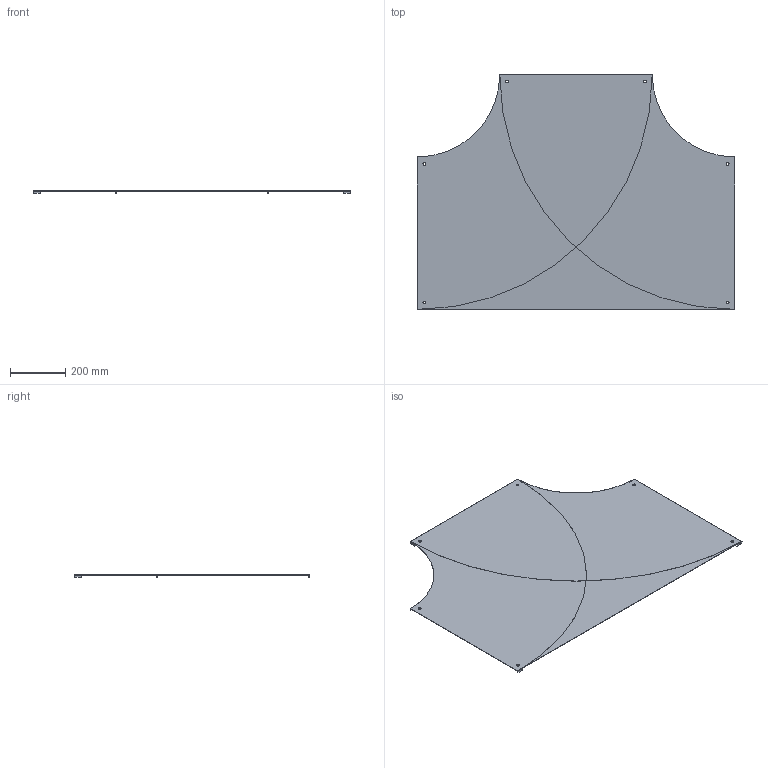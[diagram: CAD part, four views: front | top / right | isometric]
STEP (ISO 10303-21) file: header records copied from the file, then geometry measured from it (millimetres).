
FILE_DESCRIPTION(/* description */ ('','CAx-IF Rec.Pracs.---Representation and Presentation of Product Manufacturing Information (PMI)---4.0---2014-10-13'),/* implementation_level */ '2;1');
FILE_NAME(/* name */ 'Eurostrut_EETC500-300_Cover T-Piece for Cable Ladder ECL.step',/* time_stamp */ '2026-09-10T09:51:11+02:00',/* author */ (''),/* organization */ (''),/* preprocessor_version */ 'ST-DEVELOPER v20.1',/* originating_system */ 'Autodesk Revit 2027 27.2.0.39',/* authorisation */ '');
FILE_SCHEMA (('AP242_MANAGED_MODEL_BASED_3D_ENGINEERING_MIM_LF { 1 0 10303 442 2 1 4 }'));
Length unit declared in the file: millimetre
Products named in the file (7): TopLevelAssembly; Extrusion; Joined Solid Geometry; Joined Solid Geometry_1; Joined Solid Geometry_2; Joined Solid Geometry_3; Joined Solid Geometry_4
Assembly tree (6 placements, depth 2):
  TopLevelAssembly
    Extrusion
    Joined Solid Geometry
    Joined Solid Geometry_1
    Joined Solid Geometry_2
    Joined Solid Geometry_3
    Joined Solid Geometry_4
Bounding box: 1150 x 851.5 x 9 mm (x, y, z)
Volume: 2757356.6 mm3; surface area: 3692078.1 mm2
Topology: 9 solids, 9 shells, 84 faces, 198 edges, 132 vertices
Faces by surface type: plane 42, cylinder 42
Entity records: 2630 total; most frequent: DIRECTION 476, CARTESIAN_POINT 427, ORIENTED_EDGE 396, EDGE_CURVE 198, AXIS2_PLACEMENT_3D 181, VERTEX_POINT 132, LINE 114, VECTOR 114
